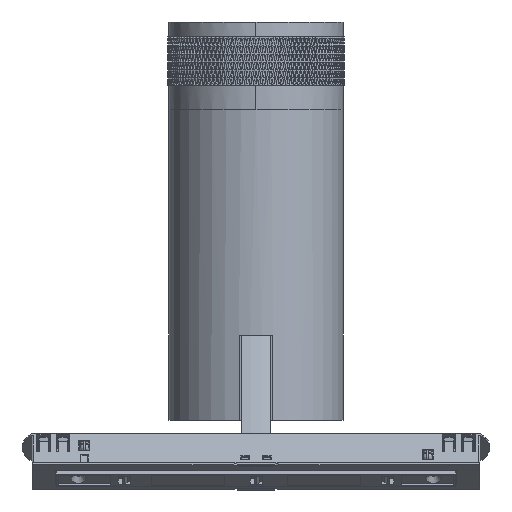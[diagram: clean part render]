
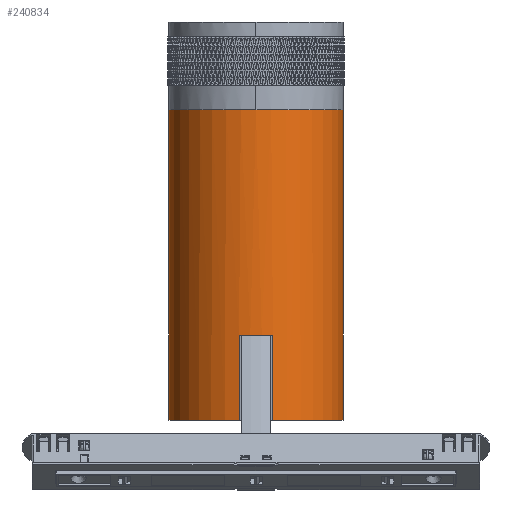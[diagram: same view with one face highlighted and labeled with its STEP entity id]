
A CAD part, front view. The second image highlights one B-rep face of the part: STEP entity #240834.
In plain terms, the highlighted cylindrical face has radius 36 mm (diameter 72 mm), a partial arc.
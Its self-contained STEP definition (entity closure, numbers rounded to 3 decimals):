
#1147 = LINE ( 'NONE', #101101, #15579 ) ;
#4138 = CIRCLE ( 'NONE', #187288, 36. ) ;
#7318 = CARTESIAN_POINT ( 'NONE',  ( 0., 0., -64. ) ) ;
#10547 = DIRECTION ( 'NONE',  ( 0., 0., -1. ) ) ;
#15579 = VECTOR ( 'NONE', #200995, 1000. ) ;
#16251 = VECTOR ( 'NONE', #156888, 1000. ) ;
#22061 = VERTEX_POINT ( 'NONE', #60825 ) ;
#32737 = ORIENTED_EDGE ( 'NONE', *, *, #84499, .T. ) ;
#36189 = EDGE_CURVE ( 'NONE', #199634, #130585, #319095, .T. ) ;
#37264 = ORIENTED_EDGE ( 'NONE', *, *, #43303, .T. ) ;
#43074 = DIRECTION ( 'NONE',  ( 1., 0., 0. ) ) ;
#43303 = EDGE_CURVE ( 'NONE', #307372, #152054, #4138, .T. ) ;
#48976 = EDGE_CURVE ( 'NONE', #296614, #85434, #88200, .T. ) ;
#49671 = AXIS2_PLACEMENT_3D ( 'NONE', #91890, #191826, #291847 ) ;
#56974 = CARTESIAN_POINT ( 'NONE',  ( -36., 0., -64. ) ) ;
#60825 = CARTESIAN_POINT ( 'NONE',  ( -36., 0., 64. ) ) ;
#62702 = CARTESIAN_POINT ( 'NONE',  ( 0., 0., 64. ) ) ;
#64513 = EDGE_CURVE ( 'NONE', #199634, #22061, #281486, .T. ) ;
#69277 = DIRECTION ( 'NONE',  ( 0., 0., 1. ) ) ;
#71738 = CARTESIAN_POINT ( 'NONE',  ( 7., -35.313, -64. ) ) ;
#72994 = EDGE_CURVE ( 'NONE', #218513, #22061, #131050, .T. ) ;
#84026 = CARTESIAN_POINT ( 'NONE',  ( -7., -35.313, -29. ) ) ;
#84499 = EDGE_CURVE ( 'NONE', #152054, #296614, #135076, .T. ) ;
#85434 = VERTEX_POINT ( 'NONE', #270546 ) ;
#88200 = CIRCLE ( 'NONE', #271402, 36. ) ;
#88870 = DIRECTION ( 'NONE',  ( 1., 0., 0. ) ) ;
#91890 = CARTESIAN_POINT ( 'NONE',  ( 0., 0., -64. ) ) ;
#99029 = ORIENTED_EDGE ( 'NONE', *, *, #64513, .F. ) ;
#101101 = CARTESIAN_POINT ( 'NONE',  ( -7., -35.313, -64. ) ) ;
#107280 = DIRECTION ( 'NONE',  ( 0., 0., 1. ) ) ;
#112738 = LINE ( 'NONE', #212626, #319649 ) ;
#130585 = VERTEX_POINT ( 'NONE', #132205 ) ;
#131050 = CIRCLE ( 'NONE', #314255, 36. ) ;
#132205 = CARTESIAN_POINT ( 'NONE',  ( -7., -35.313, -64. ) ) ;
#132556 = CARTESIAN_POINT ( 'NONE',  ( 36., 0., 64. ) ) ;
#135076 = LINE ( 'NONE', #235016, #154396 ) ;
#152054 = VERTEX_POINT ( 'NONE', #304823 ) ;
#154396 = VECTOR ( 'NONE', #10547, 1000. ) ;
#156888 = DIRECTION ( 'NONE',  ( 0., 0., 1. ) ) ;
#167553 = CARTESIAN_POINT ( 'NONE',  ( 0., 0., -29. ) ) ;
#169185 = DIRECTION ( 'NONE',  ( 1., 0., 0. ) ) ;
#175613 = CARTESIAN_POINT ( 'NONE',  ( -36., 0., -64. ) ) ;
#177735 = AXIS2_PLACEMENT_3D ( 'NONE', #7318, #107280, #207162 ) ;
#182504 = EDGE_CURVE ( 'NONE', #85434, #218513, #112738, .T. ) ;
#185029 = ORIENTED_EDGE ( 'NONE', *, *, #48976, .T. ) ;
#187288 = AXIS2_PLACEMENT_3D ( 'NONE', #167553, #267561, #43074 ) ;
#191826 = DIRECTION ( 'NONE',  ( 0., 0., 1. ) ) ;
#199634 = VERTEX_POINT ( 'NONE', #175613 ) ;
#200995 = DIRECTION ( 'NONE',  ( 0., 0., 1. ) ) ;
#207162 = DIRECTION ( 'NONE',  ( 1., 0., 0. ) ) ;
#212626 = CARTESIAN_POINT ( 'NONE',  ( 36., 0., -64. ) ) ;
#216366 = FACE_OUTER_BOUND ( 'NONE', #221429, .T. ) ;
#218513 = VERTEX_POINT ( 'NONE', #132556 ) ;
#221429 = EDGE_LOOP ( 'NONE', ( #99029, #258141, #310963, #37264, #32737, #185029, #310821, #292063 ) ) ;
#235016 = CARTESIAN_POINT ( 'NONE',  ( 7., -35.313, -64. ) ) ;
#240834 = ADVANCED_FACE ( 'NONE', ( #216366 ), #316455, .T. ) ;
#258141 = ORIENTED_EDGE ( 'NONE', *, *, #36189, .T. ) ;
#267561 = DIRECTION ( 'NONE',  ( 0., 0., 1. ) ) ;
#268109 = EDGE_CURVE ( 'NONE', #130585, #307372, #1147, .T. ) ;
#270546 = CARTESIAN_POINT ( 'NONE',  ( 36., 0., -64. ) ) ;
#271402 = AXIS2_PLACEMENT_3D ( 'NONE', #293787, #69277, #169185 ) ;
#281486 = LINE ( 'NONE', #56974, #16251 ) ;
#291847 = DIRECTION ( 'NONE',  ( 1., 0., 0. ) ) ;
#292063 = ORIENTED_EDGE ( 'NONE', *, *, #72994, .T. ) ;
#293787 = CARTESIAN_POINT ( 'NONE',  ( 0., 0., -64. ) ) ;
#296614 = VERTEX_POINT ( 'NONE', #71738 ) ;
#304823 = CARTESIAN_POINT ( 'NONE',  ( 7., -35.313, -29. ) ) ;
#307372 = VERTEX_POINT ( 'NONE', #84026 ) ;
#310821 = ORIENTED_EDGE ( 'NONE', *, *, #182504, .T. ) ;
#310963 = ORIENTED_EDGE ( 'NONE', *, *, #268109, .T. ) ;
#312737 = DIRECTION ( 'NONE',  ( 0., 0., 1. ) ) ;
#313426 = DIRECTION ( 'NONE',  ( 0., 0., -1. ) ) ;
#314255 = AXIS2_PLACEMENT_3D ( 'NONE', #62702, #313426, #88870 ) ;
#316455 = CYLINDRICAL_SURFACE ( 'NONE', #49671, 36. ) ;
#319095 = CIRCLE ( 'NONE', #177735, 36. ) ;
#319649 = VECTOR ( 'NONE', #312737, 1000. ) ;
